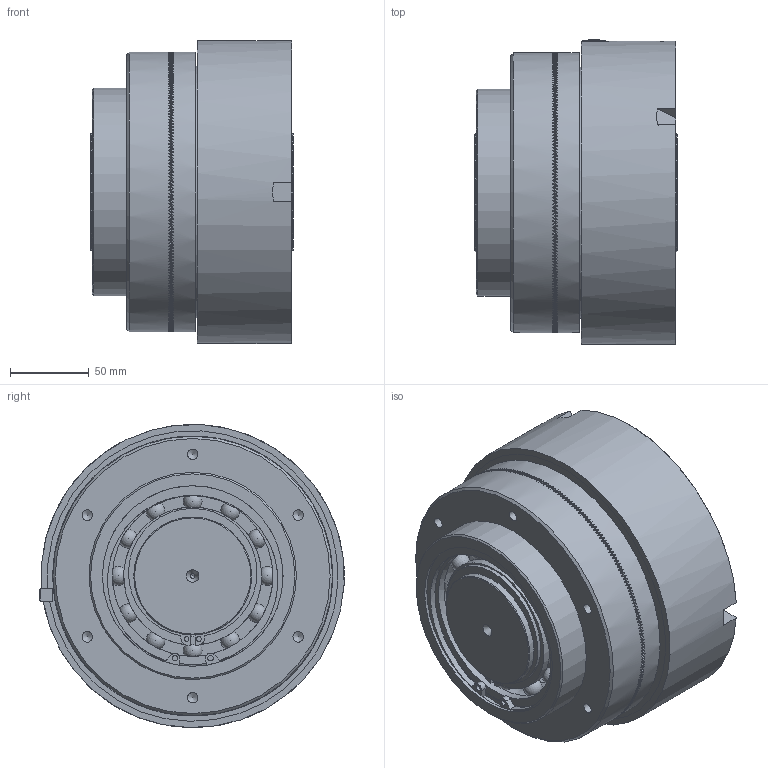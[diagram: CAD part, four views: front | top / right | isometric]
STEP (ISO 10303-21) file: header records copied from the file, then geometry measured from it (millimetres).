
FILE_DESCRIPTION((''),'2;1');
FILE_NAME('\\Srv-tecnico\DATI\UFFICIO TECNICO\ARCHIVIO INVENTOR\DISEGNI\UFFICIO TECNICO\03_Friz_Oleodinamiche e Pneumatiche_Cilindro_Statico\03_20 DPR\03_20_06_01 DPR06\03_20_06_01 DPR06_Sostituto_1.stp','2014-02-27T11:56:35',('ivan'),(''),'Autodesk Inventor 2010','Autodesk Inventor 2010','');
FILE_SCHEMA(('CONFIG_CONTROL_DESIGN'));
Length unit declared in the file: millimetre
Products named in the file (1): 03_20_06_01 DPR06_Sostituto_1
Bounding box: 129 x 193.9 x 192.92 mm (x, y, z)
Volume: 2512289.3 mm3; surface area: 442204.9 mm2
Topology: 1 solids, 14 shells, 3033 faces, 9180 edges, 6097 vertices
Faces by surface type: plane 2206, cylinder 409, torus 282, bspline 72, sphere 48, cone 16
Full cylindrical faces by diameter (mm): 4 x1, 7 x1, 72 x2, 74.5 x2, 75 x8, 85 x1, 87.8 x6, 102.2 x6, 104.8 x1, 105 x4, 115 x6, 119 x1, 120 x1, 122.6 x2, 125 x3, 132 x1, 137.7 x1, 142.4 x2, 148 x1, 150 x1, 160 x3, 160.5 x1, 165 x2, 178 x2, 180 x2, 185 x1, 193 x1
Entity records: 116115 total; most frequent: CARTESIAN_POINT 31536, DIRECTION 19514, ORIENTED_EDGE 17702, EDGE_CURVE 8851, AXIS2_PLACEMENT_3D 8469, VERTEX_POINT 5943, EDGE_LOOP 3272, ELLIPSE 3123
